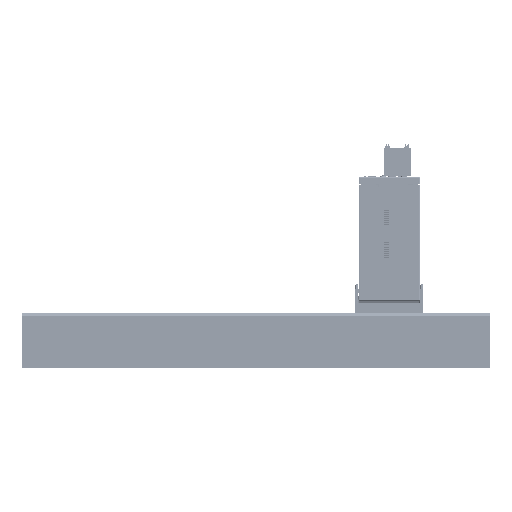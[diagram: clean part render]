
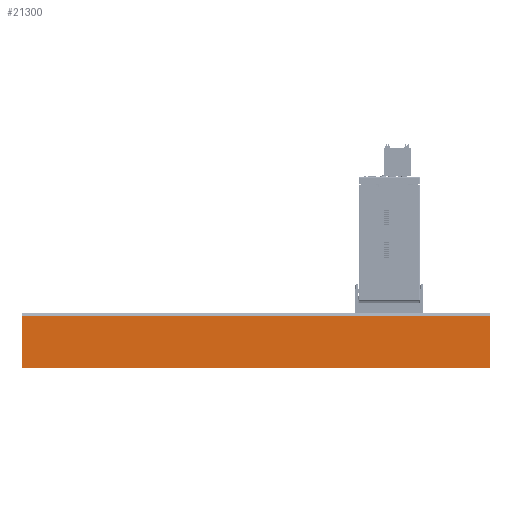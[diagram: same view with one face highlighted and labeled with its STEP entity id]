
A CAD part, left-side view. The second image highlights one B-rep face of the part: STEP entity #21300.
In plain terms, the highlighted planar face has unit normal (-1, 0, 0).
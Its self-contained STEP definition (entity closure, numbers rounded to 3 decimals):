
#11734=PLANE('',#191624);
#21300=ADVANCED_FACE('',(#30759),#11734,.T.);
#30759=FACE_OUTER_BOUND('',#41255,.T.);
#41255=EDGE_LOOP('',(#133113,#133114,#133115,#133116));
#60792=LINE('',#318250,#78849);
#60793=LINE('',#318253,#78850);
#60794=LINE('',#318255,#78851);
#60795=LINE('',#318257,#78852);
#78849=VECTOR('',#238767,1.);
#78850=VECTOR('',#238768,1.);
#78851=VECTOR('',#238769,1.);
#78852=VECTOR('',#238770,1.);
#133113=ORIENTED_EDGE('',*,*,#175574,.T.);
#133114=ORIENTED_EDGE('',*,*,#175575,.F.);
#133115=ORIENTED_EDGE('',*,*,#175576,.T.);
#133116=ORIENTED_EDGE('',*,*,#175577,.F.);
#150510=VERTEX_POINT('',#318251);
#150511=VERTEX_POINT('',#318252);
#150512=VERTEX_POINT('',#318254);
#150513=VERTEX_POINT('',#318256);
#175574=EDGE_CURVE('',#150510,#150511,#60792,.T.);
#175575=EDGE_CURVE('',#150512,#150511,#60793,.T.);
#175576=EDGE_CURVE('',#150512,#150513,#60794,.T.);
#175577=EDGE_CURVE('',#150510,#150513,#60795,.T.);
#191624=AXIS2_PLACEMENT_3D('',#318258,#238771,#238772);
#238767=DIRECTION('',(0.,-1.,0.));
#238768=DIRECTION('',(0.,0.,-1.));
#238769=DIRECTION('',(0.,1.,0.));
#238770=DIRECTION('',(0.,0.,1.));
#238771=DIRECTION('',(-1.,0.,0.));
#238772=DIRECTION('',(0.,0.,1.));
#318250=CARTESIAN_POINT('',(870.05,67.12,-26.5));
#318251=CARTESIAN_POINT('',(870.05,89.26,-26.5));
#318252=CARTESIAN_POINT('',(870.05,-136.74,-26.5));
#318253=CARTESIAN_POINT('',(870.05,-136.74,0.));
#318254=CARTESIAN_POINT('',(870.05,-136.74,-1.1));
#318255=CARTESIAN_POINT('',(870.05,151.369,-1.1));
#318256=CARTESIAN_POINT('',(870.05,89.26,-1.1));
#318257=CARTESIAN_POINT('',(870.05,89.26,-216.212));
#318258=CARTESIAN_POINT('',(870.05,151.369,0.));
